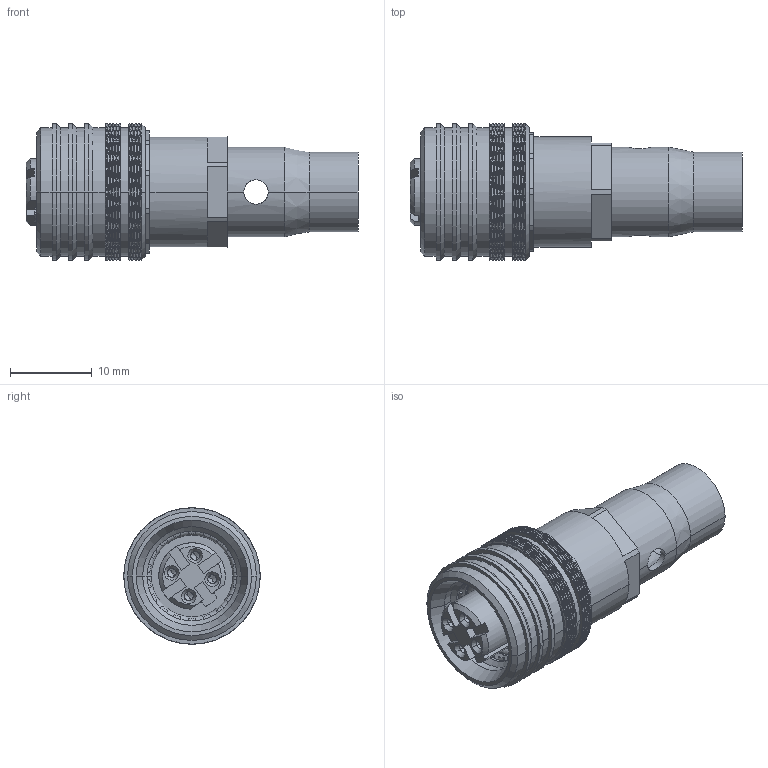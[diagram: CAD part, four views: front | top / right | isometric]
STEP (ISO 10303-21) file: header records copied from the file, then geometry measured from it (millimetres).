
FILE_DESCRIPTION((''),'2;1');
FILE_NAME('216D-04FO1_C_1_ASM','2026-04-27T',('fros.liao'),(''),'CREO PARAMETRIC BY PTC INC, 2018360','CREO PARAMETRIC BY PTC INC, 2018360','');
FILE_SCHEMA(('CONFIG_CONTROL_DESIGN'));
Products named in the file (9): SHELL_FEMALE; HSG_FEMALE; PIN_FEMALE; LOCK_FEMALE; ORING_FEMALE; OUTSHELL_FEMALE; GND_SHELL; ORING; 216D-04FO1_C_1_ASM
Assembly tree (11 placements, depth 2):
  216D-04FO1_C_1_ASM
    SHELL_FEMALE
    HSG_FEMALE
    PIN_FEMALE  x4
    LOCK_FEMALE
    ORING_FEMALE
    OUTSHELL_FEMALE
    GND_SHELL
    ORING
Bounding box: 40.7 x 16.7 x 16.7 mm (x, y, z)
Volume: 3269.5 mm3; surface area: 7439.9 mm2
Topology: 11 solids, 11 shells, 2557 faces, 5983 edges, 3465 vertices
Faces by surface type: bspline 1541, cylinder 661, plane 245, cone 98, torus 12
Entity records: 108397 total; most frequent: CARTESIAN_POINT 64004, ORIENTED_EDGE 11406, EDGE_CURVE 5703, DIRECTION 4976, B_SPLINE_CURVE_WITH_KNOTS 3379, VERTEX_POINT 3291, EDGE_LOOP 2500, FACE_OUTER_BOUND 2452
